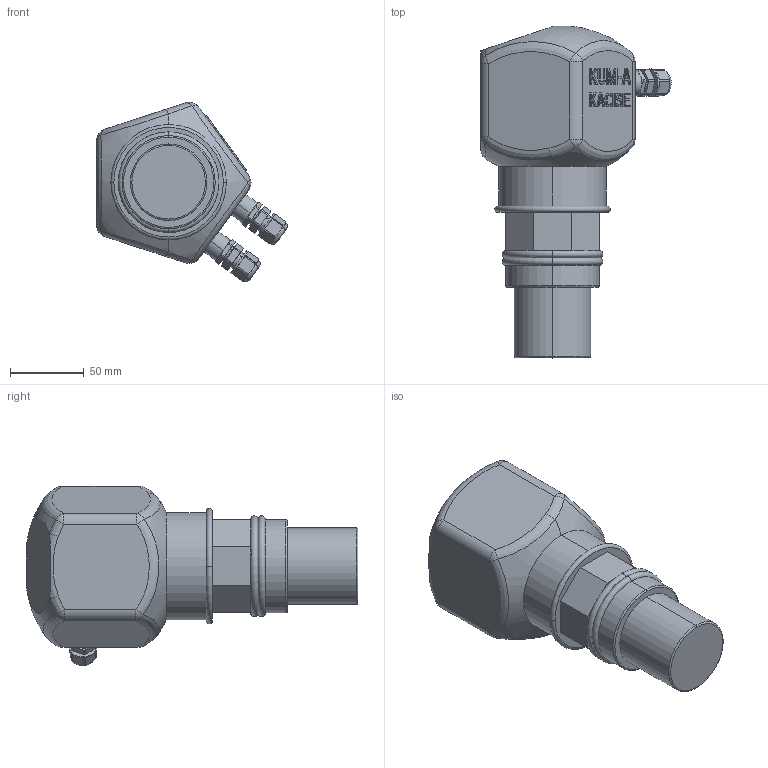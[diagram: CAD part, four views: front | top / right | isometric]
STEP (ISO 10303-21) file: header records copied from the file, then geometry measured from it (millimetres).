
FILE_DESCRIPTION((''),'2;1');
FILE_NAME('ASM0001_ASM','2025-12-26T16:23:41',('28740194'),(''),'CREO PARAMETRIC BY PTC INC, 2024063','CREO PARAMETRIC BY PTC INC, 2024063','');
FILE_SCHEMA(('CONFIG_CONTROL_DESIGN'));
Length unit declared in the file: millimetre
Products named in the file (9): KUM-A; EV214_27005336_DUMMY; EV214_27005336_02; EV214_27005336_03; EV214_27005336_04; EV214_27005336_06; EV214_27005336_07; EV214_27005336_ASM; ASM0001_ASM
Assembly tree (9 placements, depth 3):
  ASM0001_ASM
    KUM-A
    EV214_27005336_ASM  x2
      EV214_27005336_DUMMY
      EV214_27005336_02
      EV214_27005336_03
      EV214_27005336_04
      EV214_27005336_06
      EV214_27005336_07
Bounding box: 129.56 x 225.57 x 121.82 mm (x, y, z)
Volume: 1113886.9 mm3; surface area: 82675.7 mm2
Topology: 11 solids, 19 shells, 762 faces, 2060 edges, 1357 vertices
Faces by surface type: plane 550, cylinder 143, torus 22, cone 20, bspline 17, sphere 10
Entity records: 18704 total; most frequent: CARTESIAN_POINT 5068, ORIENTED_EDGE 2810, DIRECTION 2801, EDGE_CURVE 1413, VECTOR 1009, LINE 1009, VERTEX_POINT 925, AXIS2_PLACEMENT_3D 896
